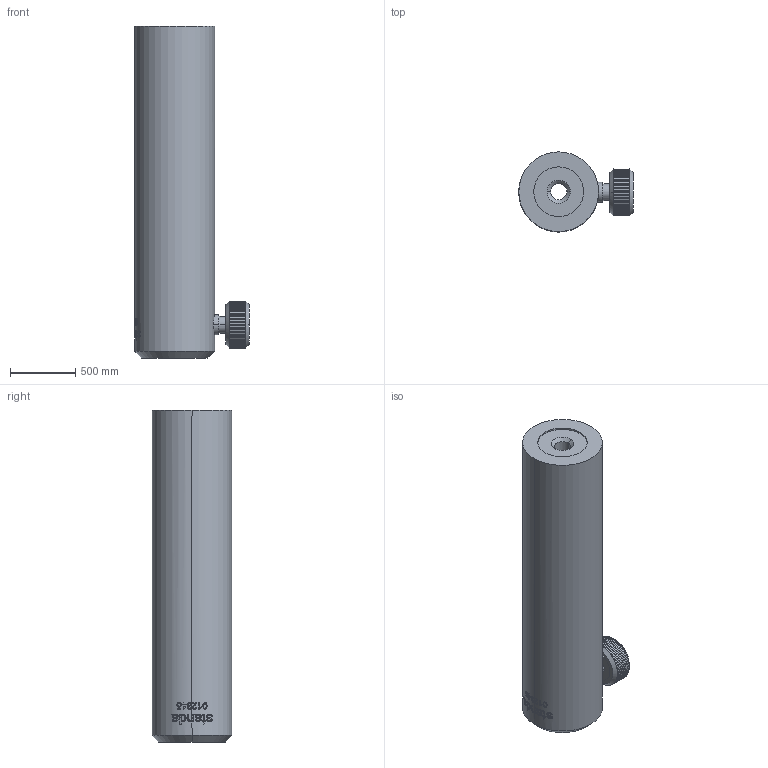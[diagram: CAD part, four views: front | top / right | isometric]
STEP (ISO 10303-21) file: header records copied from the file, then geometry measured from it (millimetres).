
FILE_DESCRIPTION (( 'STEP AP203' ), '1' );
FILE_NAME ('3PH-100.STEP', '2008-12-05T13:59:57', ( 'Darius' ), ( '' ), 'SwSTEP 2.0', 'SolidWorks 2003240', '' );
FILE_SCHEMA (( 'CONFIG_CONTROL_DESIGN' ));
Length unit declared in the file: inch
Products named in the file (1): 3PH-100
Bounding box: 874.38 x 609.6 x 2540 mm (x, y, z)
Volume: 521029800.2 mm3; surface area: 8564760.5 mm2
Topology: 1 solids, 1 shells, 537 faces, 1133 edges, 619 vertices
Faces by surface type: plane 377, bspline 115, cylinder 35, cone 10
Entity records: 22670 total; most frequent: CARTESIAN_POINT 11984, ORIENTED_EDGE 2266, DIRECTION 1996, EDGE_CURVE 1133, AXIS2_PLACEMENT_3D 714, VERTEX_POINT 619, VECTOR 568, LINE 568
